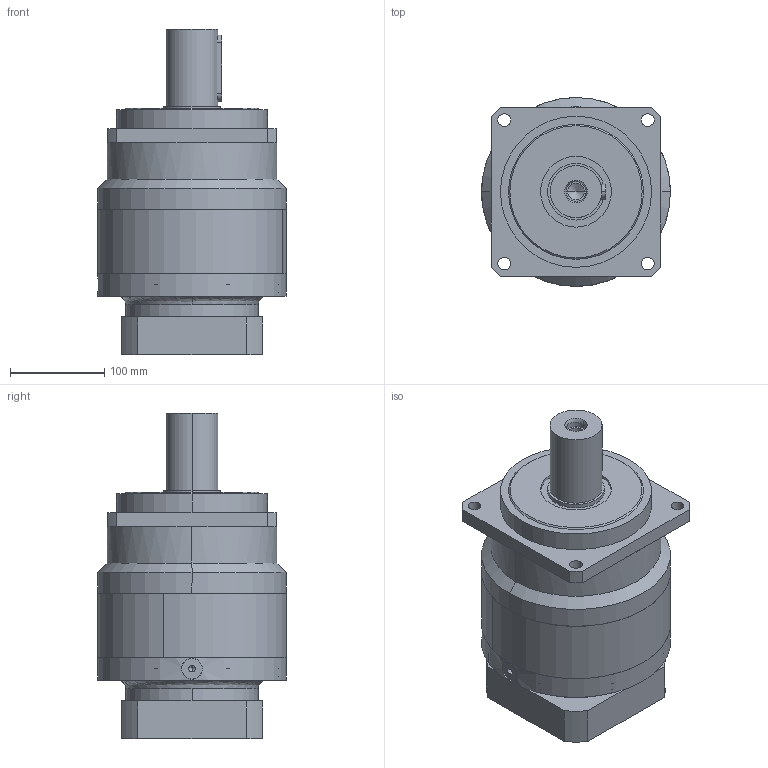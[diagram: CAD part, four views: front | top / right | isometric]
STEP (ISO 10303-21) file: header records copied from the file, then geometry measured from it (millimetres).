
FILE_DESCRIPTION (( 'STEP AP203' ), '1' );
FILE_NAME ('PLM180-L2-22-110-145-M8.STEP', '2023-07-05T03:00:12', ( 'Windows User' ), ( 'P R C' ), 'SwSTEP 2.0', 'SolidWorks 2016', '' );
FILE_SCHEMA (( 'CONFIG_CONTROL_DESIGN' ));
Length unit declared in the file: millimetre
Products named in the file (7): 邧埴瑩 16x10x70; PLM180 一级连接板 150匡 110x7 145xM8 40L_D4-114.3 D7-200 D8-M12 A2-180 L5-10 L6-83(45+38) R-117 标准; PLM180 内齿圈; PLM180-L2-22-110-145-M8; PLM180 奻裔啣_D1-55 D2-160 D5-215 D6-13.5 L1-82 L2-20 L3-15 L4-105 A1-179 S1-6 S2-70 S3-10 S4-42 B-16 H-59 C-M20 梓袧; PLM180 下盖板 非标 内孔22-B6_D9-200 D3-35 B-10x8 标准; 囀鞠褒蹟佪-M8x25
Assembly tree (6 placements, depth 2):
  PLM180-L2-22-110-145-M8
    PLM180 奻裔啣_D1-55 D2-160 D5-215 D6-13.5 L1-82 L2-20 L3-15 L4-105 A1-179 S1-6 S2-70 S3-10 S4-42 B-16 H-59 C-M20 梓袧
    PLM180 下盖板 非标 内孔22-B6_D9-200 D3-35 B-10x8 标准
    囀鞠褒蹟佪-M8x25
    邧埴瑩 16x10x70
    PLM180 一级连接板 150匡 110x7 145xM8 40L_D4-114.3 D7-200 D8-M12 A2-180 L5-10 L6-83(45+38) R-117 标准
    PLM180 内齿圈
Bounding box: 200 x 200 x 344.5 mm (x, y, z)
Volume: 6749081.4 mm3; surface area: 465001.1 mm2
Topology: 6 solids, 6 shells, 978 faces, 2544 edges, 1659 vertices
Faces by surface type: plane 602, cylinder 176, bspline 148, cone 52
Entity records: 36360 total; most frequent: CARTESIAN_POINT 12445, ORIENTED_EDGE 5000, DIRECTION 4285, EDGE_CURVE 2500, VECTOR 1791, LINE 1791, VERTEX_POINT 1659, AXIS2_PLACEMENT_3D 1247
